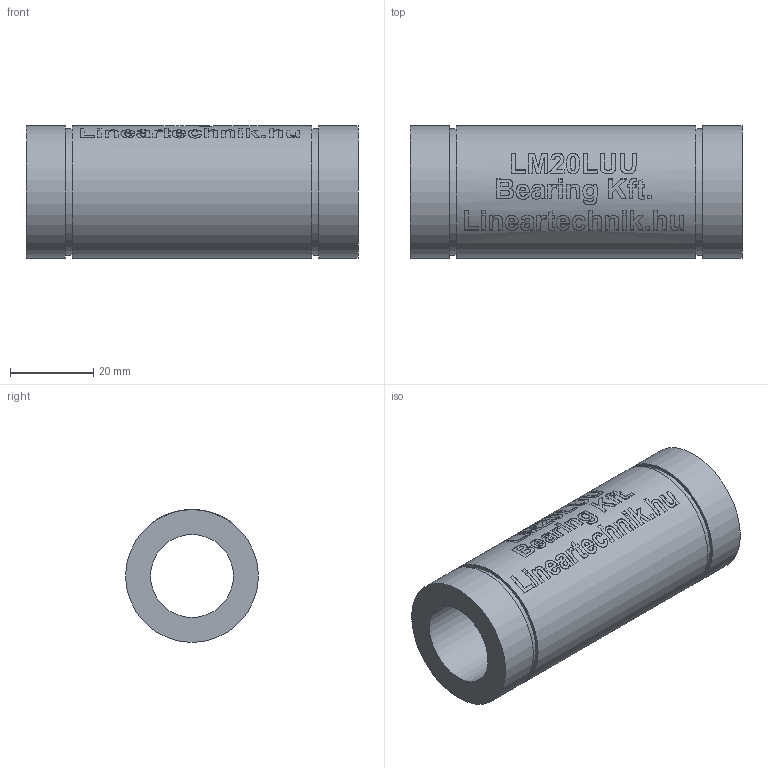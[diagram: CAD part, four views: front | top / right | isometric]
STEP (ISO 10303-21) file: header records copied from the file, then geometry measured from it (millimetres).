
FILE_DESCRIPTION(/* description */ (''),/* implementation_level */ '2;1');
FILE_NAME(/* name */ 'LM20LUU',/* time_stamp */ '2019-05-16T09:38:29+02:00',/* author */ ('VĂ©gh MĂˇtĂ©'),/* organization */ ('Bearing Kft'),/* preprocessor_version */ 'ST-DEVELOPER v16.7',/* originating_system */ 'DEX',/* authorisation */ $);
FILE_SCHEMA (('AUTOMOTIVE_DESIGN { 1 0 10303 214 3 1 1 }','AUTOMOTIVE_DESIGN {1 0 10303 214 3 1 1}'));
Length unit declared in the file: millimetre
Products named in the file (1): LM20LUU
Bounding box: 80 x 32 x 32 mm (x, y, z)
Volume: 38944.6 mm3; surface area: 14392.6 mm2
Topology: 1 solids, 1 shells, 305 faces, 762 edges, 509 vertices
Faces by surface type: plane 160, bspline 93, cylinder 52
Full cylindrical faces by diameter (mm): 20 x1, 30.5 x2, 32 x3
Entity records: 20896 total; most frequent: CARTESIAN_POINT 14103, ORIENTED_EDGE 1502, DIRECTION 1132, EDGE_CURVE 751, VERTEX_POINT 507, LINE 416, VECTOR 416, EDGE_LOOP 366
